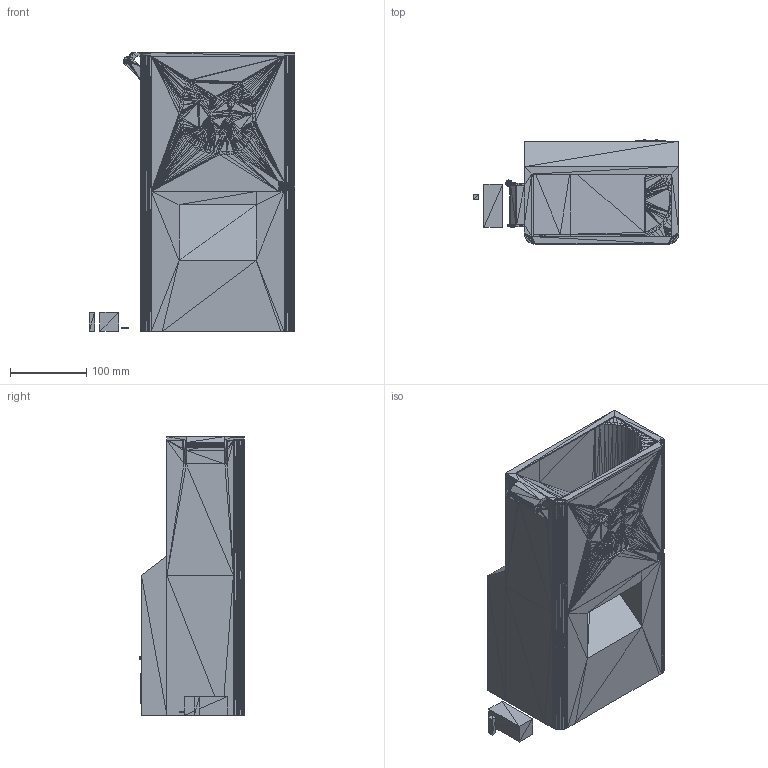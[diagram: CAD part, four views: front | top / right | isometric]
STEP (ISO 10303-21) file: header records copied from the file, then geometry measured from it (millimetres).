
FILE_DESCRIPTION((''),'2;1');
FILE_NAME('Automated cat food dispenser (66)', '2026-10-31T04:49:53', (''), (''), 'ImageToStl.com STEP Converter','', '');
FILE_SCHEMA(('AUTOMOTIVE_DESIGN_CC2'));
Length unit declared in the file: millimetre
Products named in the file (1): product0
Bounding box: 270.64 x 137.32 x 366.71 mm (x, y, z)
Surface area: 647653.1 mm2 (no closed solid volume)
Topology: 0 solids, 38552 shells, 38552 faces, 115427 edges, 18006 vertices
Faces by surface type: plane 38552
Entity records: 884183 total; most frequent: DIRECTION 192762, ORIENTED_EDGE 115656, EDGE_CURVE 115656, LINE 115656, VECTOR 115656, AXIS2_PLACEMENT_3D 38553, FACE_SURFACE 38552, PLANE 38552
